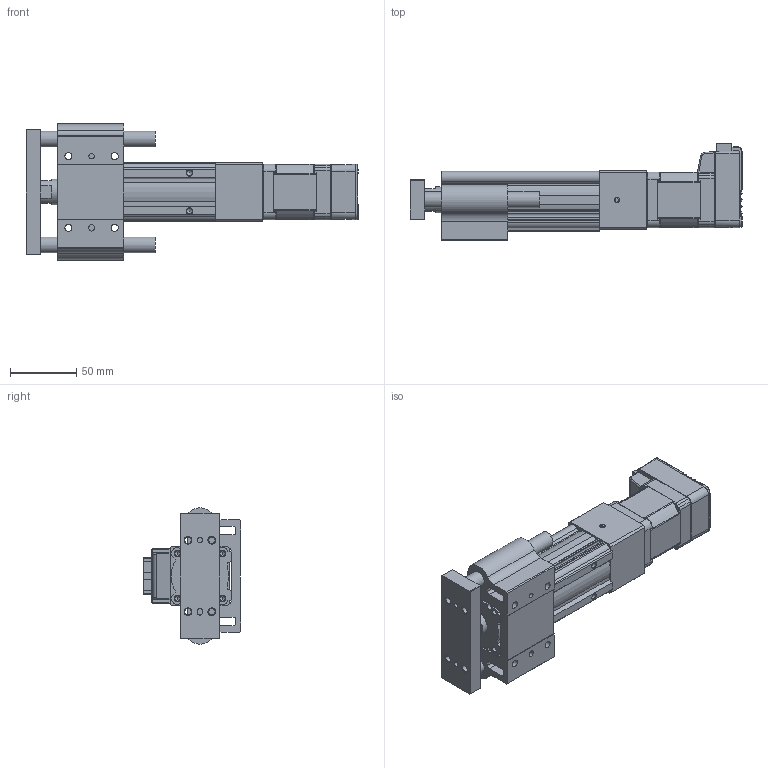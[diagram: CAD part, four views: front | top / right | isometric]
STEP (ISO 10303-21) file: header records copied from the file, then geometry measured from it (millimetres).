
FILE_DESCRIPTION (( 'STEP AP214' ), '1' );
FILE_NAME ('LEYG3(+)-25MDNM1□-30-17L.STEP', '2023-04-10T08:24:17', ( '' ), ( '' ), 'SwSTEP 2.0', 'SolidWorks 2019', '' );
FILE_SCHEMA (( 'AUTOMOTIVE_DESIGN' ));
Length unit declared in the file: millimetre
Products named in the file (6): LEYG3(+)-25MDNM1□-30-17L; CM3(+)-17L50A; LEYG3(+)-25MNM1?_ROD_30; LEYG3(+)-25MNM1□_ATTACH_30; LEYG3(+)-25□DNM1_MOTOR Flange; LEYG3(+)-25NM1?_BODY_30
Assembly tree (5 placements, depth 2):
  LEYG3(+)-25MDNM1□-30-17L
    LEYG3(+)-25NM1?_BODY_30
    LEYG3(+)-25MNM1?_ROD_30
    LEYG3(+)-25MNM1□_ATTACH_30
    LEYG3(+)-25□DNM1_MOTOR Flange
    CM3(+)-17L50A
Bounding box: 250.8 x 73.55 x 103 mm (x, y, z)
Volume: 543412.7 mm3; surface area: 121698.6 mm2
Topology: 5 solids, 5 shells, 936 faces, 2384 edges, 1501 vertices
Faces by surface type: plane 499, cylinder 272, cone 86, bspline 29, torus 29, sphere 21
Full cylindrical faces by diameter (mm): 2.5 x4, 3.5 x4, 4 x2, 4.2 x2, 4.9 x4, 5 x1, 5.4 x4, 8 x1, 11 x1, 12 x2, 22 x1, 33 x1
Entity records: 37841 total; most frequent: CARTESIAN_POINT 6834, ORIENTED_EDGE 4612, DIRECTION 4473, EDGE_CURVE 2306, AXIS2_PLACEMENT_3D 1494, VERTEX_POINT 1490, LINE 1485, VECTOR 1485
